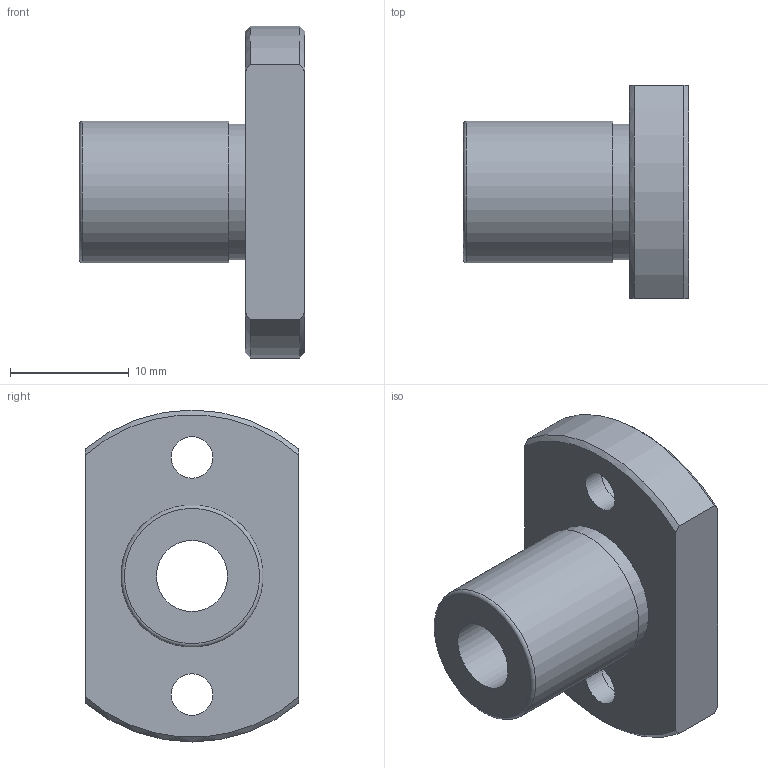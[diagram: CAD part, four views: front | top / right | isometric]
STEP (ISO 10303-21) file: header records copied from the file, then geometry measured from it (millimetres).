
FILE_DESCRIPTION(('STEP AP203'),'1');
FILE_NAME('//192.168.1.1/share/s-4 技術開発/s-4-4_CAD/s-4-4-3_見直し済み/002 修正済み/NFEO-V/NFEO-6VUU.step','2022-03-07T03:08:01',(' '),(' '),'Spatial InterOp 3D',' ',' ');
FILE_SCHEMA(('CONFIG_CONTROL_DESIGN'));
Length unit declared in the file: millimetre
Products named in the file (1): 1
Bounding box: 19 x 18 x 28 mm (x, y, z)
Volume: 3148 mm3; surface area: 2285.2 mm2
Topology: 1 solids, 1 shells, 22 faces, 51 edges, 35 vertices
Faces by surface type: cylinder 9, plane 8, cone 4, torus 1
Full cylindrical faces by diameter (mm): 3.5 x2, 6 x3, 11.5 x1, 12 x1
Entity records: 630 total; most frequent: CARTESIAN_POINT 117, DIRECTION 100, ORIENTED_EDGE 78, AXIS2_PLACEMENT_3D 46, EDGE_LOOP 40, EDGE_CURVE 39, VERTEX_POINT 31, FACE_OUTER_BOUND 30
